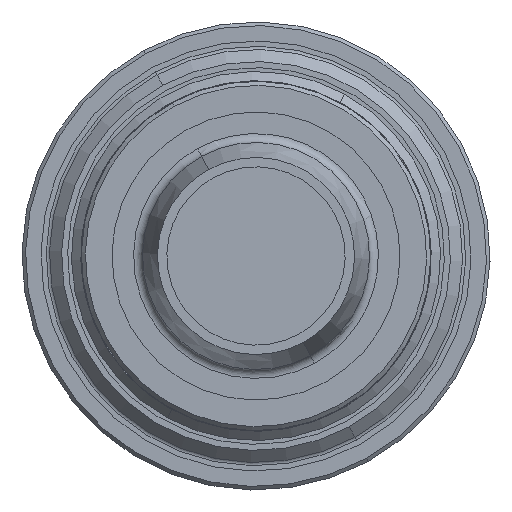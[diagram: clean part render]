
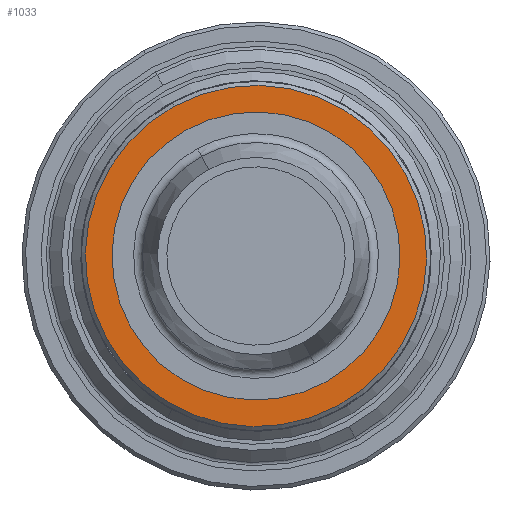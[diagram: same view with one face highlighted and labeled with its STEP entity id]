
A CAD part, left-side view. The second image highlights one B-rep face of the part: STEP entity #1033.
In plain terms, the highlighted planar face has unit normal (-1, 0, 0).
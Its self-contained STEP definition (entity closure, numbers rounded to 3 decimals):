
#927=AXIS2_PLACEMENT_3D('Circle Axis2P3D',#925,#926,$) ;
#953=AXIS2_PLACEMENT_3D('Circle Axis2P3D',#951,#952,$) ;
#1009=AXIS2_PLACEMENT_3D('Plane Axis2P3D',#1006,#1007,#1008) ;
#1017=AXIS2_PLACEMENT_3D('Circle Axis2P3D',#1015,#1016,$) ;
#1026=AXIS2_PLACEMENT_3D('Circle Axis2P3D',#1024,#1025,$) ;
#925=CARTESIAN_POINT('Axis2P3D Location',(-25.205,0.,0.)) ;
#929=CARTESIAN_POINT('Vertex',(-25.205,1.827,3.344)) ;
#931=CARTESIAN_POINT('Vertex',(-25.205,-1.827,-3.344)) ;
#951=CARTESIAN_POINT('Axis2P3D Location',(-25.205,0.,0.)) ;
#1006=CARTESIAN_POINT('Axis2P3D Location',(-25.205,0.,3.215)) ;
#1015=CARTESIAN_POINT('Axis2P3D Location',(-25.205,0.,0.)) ;
#1019=CARTESIAN_POINT('Vertex',(-25.205,1.541,2.821)) ;
#1021=CARTESIAN_POINT('Vertex',(-25.205,-1.541,-2.821)) ;
#1024=CARTESIAN_POINT('Axis2P3D Location',(-25.205,0.,0.)) ;
#926=DIRECTION('Axis2P3D Direction',(-1.,0.,0.)) ;
#952=DIRECTION('Axis2P3D Direction',(-1.,0.,0.)) ;
#1007=DIRECTION('Axis2P3D Direction',(-1.,0.,0.)) ;
#1008=DIRECTION('Axis2P3D XDirection',(0.,1.,0.)) ;
#1016=DIRECTION('Axis2P3D Direction',(-1.,0.,0.)) ;
#1025=DIRECTION('Axis2P3D Direction',(-1.,0.,0.)) ;
#1012=ORIENTED_EDGE('',*,*,#955,.T.) ;
#1013=ORIENTED_EDGE('',*,*,#933,.T.) ;
#1030=ORIENTED_EDGE('',*,*,#1023,.F.) ;
#1031=ORIENTED_EDGE('',*,*,#1028,.F.) ;
#1032=FACE_BOUND('',#1029,.T.) ;
#1033=ADVANCED_FACE('',(#1014,#1032),#1010,.T.) ;
#928=CIRCLE('generated circle',#927,3.81) ;
#954=CIRCLE('generated circle',#953,3.81) ;
#1018=CIRCLE('generated circle',#1017,3.215) ;
#1027=CIRCLE('generated circle',#1026,3.215) ;
#933=EDGE_CURVE('',#930,#932,#928,.T.) ;
#955=EDGE_CURVE('',#932,#930,#954,.T.) ;
#1023=EDGE_CURVE('',#1020,#1022,#1018,.T.) ;
#1028=EDGE_CURVE('',#1022,#1020,#1027,.T.) ;
#1011=EDGE_LOOP('',(#1012,#1013)) ;
#1029=EDGE_LOOP('',(#1030,#1031)) ;
#1014=FACE_OUTER_BOUND('',#1011,.T.) ;
#1010=PLANE('Plane',#1009) ;
#930=VERTEX_POINT('',#929) ;
#932=VERTEX_POINT('',#931) ;
#1020=VERTEX_POINT('',#1019) ;
#1022=VERTEX_POINT('',#1021) ;
